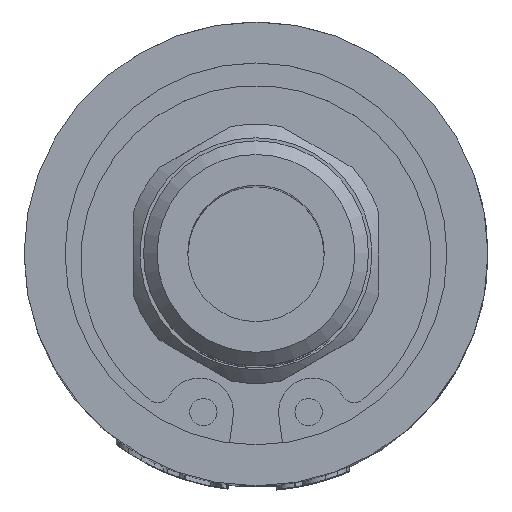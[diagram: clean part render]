
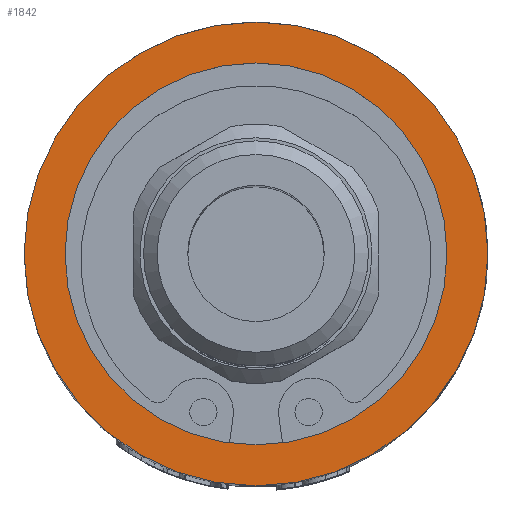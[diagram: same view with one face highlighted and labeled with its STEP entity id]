
A CAD part, top view. The second image highlights one B-rep face of the part: STEP entity #1842.
In plain terms, the highlighted planar face has unit normal (0, 0, 1).
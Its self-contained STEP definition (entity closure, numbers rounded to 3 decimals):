
#182=FACE_BOUND('',#4218,.T.);
#183=FACE_BOUND('',#4219,.T.);
#1068=CIRCLE('',#19415,17.);
#1072=CIRCLE('',#19424,14.);
#1842=ADVANCED_FACE('',(#182,#183),#2427,.T.);
#2427=PLANE('',#19425);
#4218=EDGE_LOOP('',(#9163));
#4219=EDGE_LOOP('',(#9164));
#9163=ORIENTED_EDGE('',*,*,#15430,.F.);
#9164=ORIENTED_EDGE('',*,*,#15438,.T.);
#12830=VERTEX_POINT('',#36174);
#12836=VERTEX_POINT('',#36191);
#15430=EDGE_CURVE('',#12830,#12830,#1068,.T.);
#15438=EDGE_CURVE('',#12836,#12836,#1072,.T.);
#19415=AXIS2_PLACEMENT_3D('',#36173,#21162,#21163);
#19424=AXIS2_PLACEMENT_3D('',#36190,#21182,#21183);
#19425=AXIS2_PLACEMENT_3D('',#36192,#21184,#21185);
#21162=DIRECTION('',(0.,0.,-1.));
#21163=DIRECTION('',(1.,0.,0.));
#21182=DIRECTION('',(0.,0.,-1.));
#21183=DIRECTION('',(1.,0.,0.));
#21184=DIRECTION('',(0.,0.,1.));
#21185=DIRECTION('',(1.,0.,0.));
#36173=CARTESIAN_POINT('',(0.,0.,50.));
#36174=CARTESIAN_POINT('',(17.,0.,50.));
#36190=CARTESIAN_POINT('',(0.,0.,50.));
#36191=CARTESIAN_POINT('',(14.,0.,50.));
#36192=CARTESIAN_POINT('',(0.,0.,50.));
